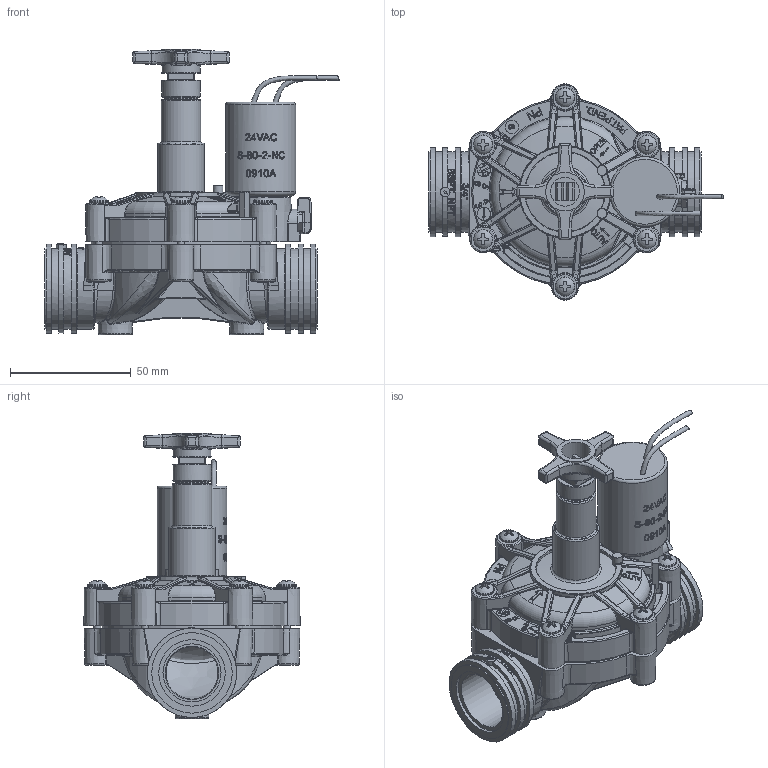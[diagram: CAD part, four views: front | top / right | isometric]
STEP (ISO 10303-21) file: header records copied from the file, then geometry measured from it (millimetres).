
FILE_DESCRIPTION((''),'2;1');
FILE_NAME('H-gal3_4-Th-2w-oper','2011-07-28T14:14:39',('dafnaraz'),(''),'CADlook_v12.0','Cimatron E 9.0','');
FILE_SCHEMA(('AUTOMOTIVE_DESIGN { 1 2 10303 214 0 1 1 1 }'));
Length unit declared in the file: millimetre
Products named in the file (14): H-gal3_4-Th-2w-oper.1; YDD00003024A51Y; Hgal3_4P-Th-75; mav8x1_7; throt handle; pin-ma; 9021; override561; Bonnet1P_Th-ma; 2011; stem1; disc-throt1; dia-25; body07-ca
Assembly tree (18 placements, depth 3):
  H-gal3_4-Th-2w-oper.1
    YDD00003024A51Y
    Hgal3_4P-Th-75
      mav8x1_7  x6
      throt handle
      pin-ma
      9021
      override561
      Bonnet1P_Th-ma
      2011
      stem1
      disc-throt1
      dia-25
      body07-ca
Bounding box: 122.14 x 89.66 x 118.59 mm (x, y, z)
Volume: 120323.6 mm3; surface area: 97311.4 mm2
Topology: 25 solids, 34 shells, 4484 faces, 12776 edges, 10025 vertices
Faces by surface type: bspline 1412, plane 1231, cylinder 1107, torus 457, cone 141, sphere 136
Full cylindrical faces by diameter (mm): 1.9 x1, 2 x1, 2.2 x1, 2.5 x2, 2.6 x2, 2.9 x6, 3 x2, 4 x3, 4.1 x1, 4.2 x1, 4.25 x1, 4.4 x6, 4.5 x1, 4.8 x1, 5 x1, 5.5 x4, 5.6 x1, 6.9 x1, 7 x4, 7.1 x1, 7.65 x1, 7.851 x1, 8 x6, 8.6 x3, 9 x1, 11.1 x1, 11.21 x1, 11.3 x1, 11.5 x1, 11.7 x2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
Entity records: 279791 total; most frequent: CARTESIAN_POINT 137398, ORIENTED_EDGE 21182, DIRECTION 18778, EDGE_CURVE 10605, AXIS2_PLACEMENT_3D 7114, VERTEX_POINT 6618, COLOUR_RGB 5901, PRESENTATION_STYLE_ASSIGNMENT 5901
